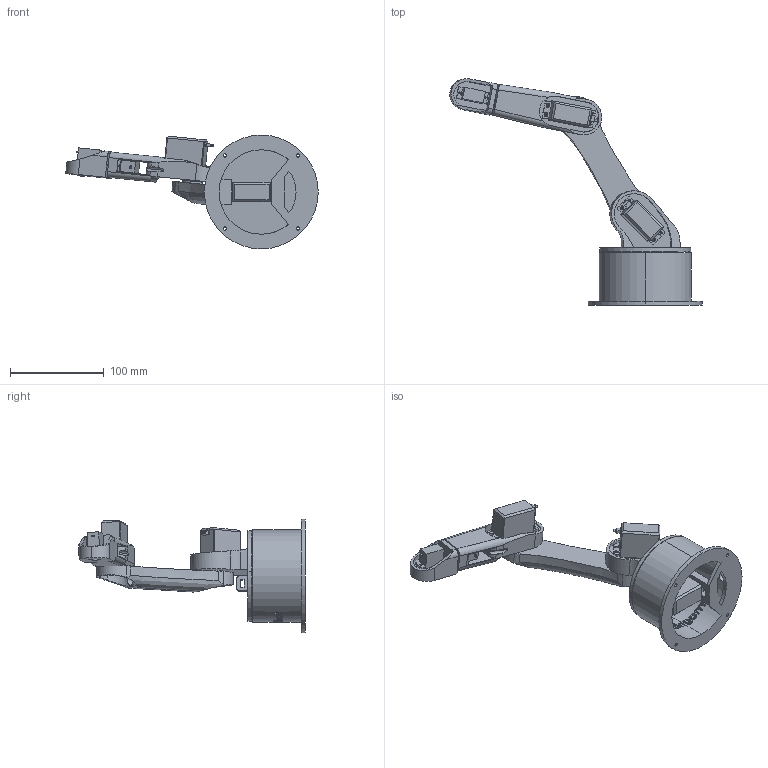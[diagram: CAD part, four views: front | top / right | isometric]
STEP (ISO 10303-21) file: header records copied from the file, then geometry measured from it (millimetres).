
FILE_DESCRIPTION (( 'STEP AP203' ), '1' );
FILE_NAME ('assembly.step', '2026-07-08T19:34:29', ( '2119242965@qq.com' ), ( '' ), 'SwSTEP 2.0', 'SolidWorks 2026', '' );
FILE_SCHEMA (( 'CONFIG_CONTROL_DESIGN' ));
Length unit declared in the file: millimetre
Products named in the file (8): assembly; Waist; Arm 01; Servo Motor Micro  9g; Servo Motor MG996R; Base; Arm 02 v3; Arm 03
Assembly tree (10 placements, depth 2):
  assembly
    Base
    Servo Motor MG996R  x3
    Waist
    Arm 01
    Servo Motor Micro  9g  x2
    Arm 02 v3
    Arm 03
Bounding box: 268.89 x 241.22 x 121.25 mm (x, y, z)
Volume: 410077.4 mm3; surface area: 155824 mm2
Topology: 30 solids, 33 shells, 979 faces, 2486 edges, 1605 vertices
Faces by surface type: plane 459, cylinder 401, bspline 87, torus 24, cone 8
Entity records: 24012 total; most frequent: CARTESIAN_POINT 8242, ORIENTED_EDGE 3148, DIRECTION 2937, EDGE_CURVE 1574, AXIS2_PLACEMENT_3D 1039, VERTEX_POINT 1030, LINE 859, VECTOR 859
